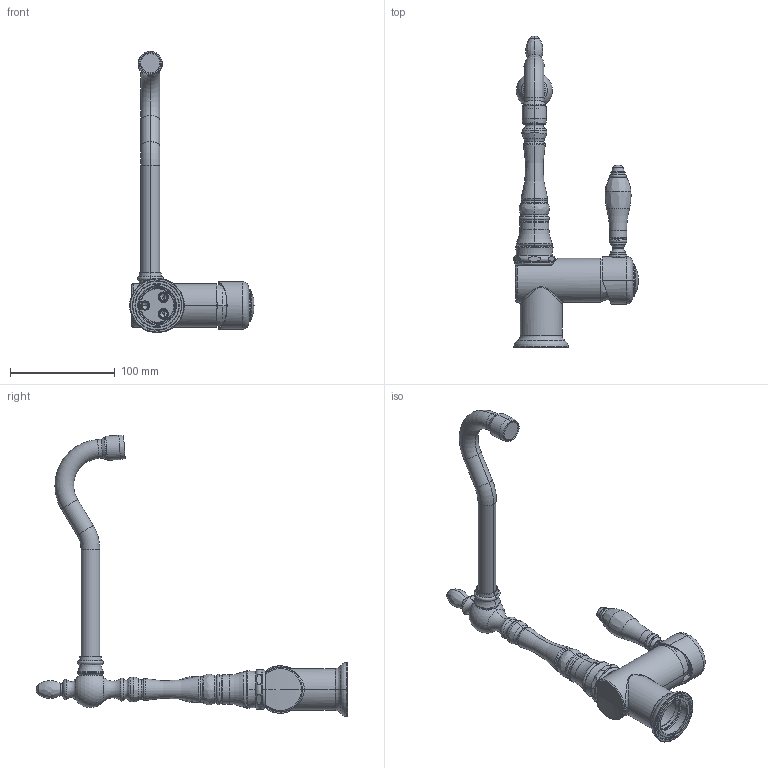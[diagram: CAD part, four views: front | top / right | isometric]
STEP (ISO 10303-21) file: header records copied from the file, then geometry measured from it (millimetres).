
FILE_DESCRIPTION(/* description */ (''),/* implementation_level */ '2;1');
FILE_NAME(/* name */ 'miscelatore mir6.stp',/* time_stamp */ '2019-07-22T10:03:53+02:00',/* author */ (''),/* organization */ (''),/* preprocessor_version */ 'ST-DEVELOPER v16',/* originating_system */ 'SIEMENS PLM Software NX 11.0',/* authorisation */ '');
FILE_SCHEMA (('AUTOMOTIVE_DESIGN { 1 0 10303 214 3 1 1 1 }'));
Length unit declared in the file: millimetre
Products named in the file (1): gobb24E4E52816n9
Bounding box: 119.5 x 298.4 x 269.21 mm (x, y, z)
Volume: 226255.2 mm3; surface area: 118162.2 mm2
Topology: 6 solids, 8 shells, 1517 faces, 3844 edges, 2403 vertices
Faces by surface type: plane 792, cylinder 220, torus 198, cone 116, extrusion 102, bspline 67, sphere 22
Entity records: 51172 total; most frequent: CARTESIAN_POINT 15079, ORIENTED_EDGE 7636, DIRECTION 7157, EDGE_CURVE 3818, VECTOR 2571, LINE 2469, VERTEX_POINT 2403, AXIS2_PLACEMENT_3D 2293
